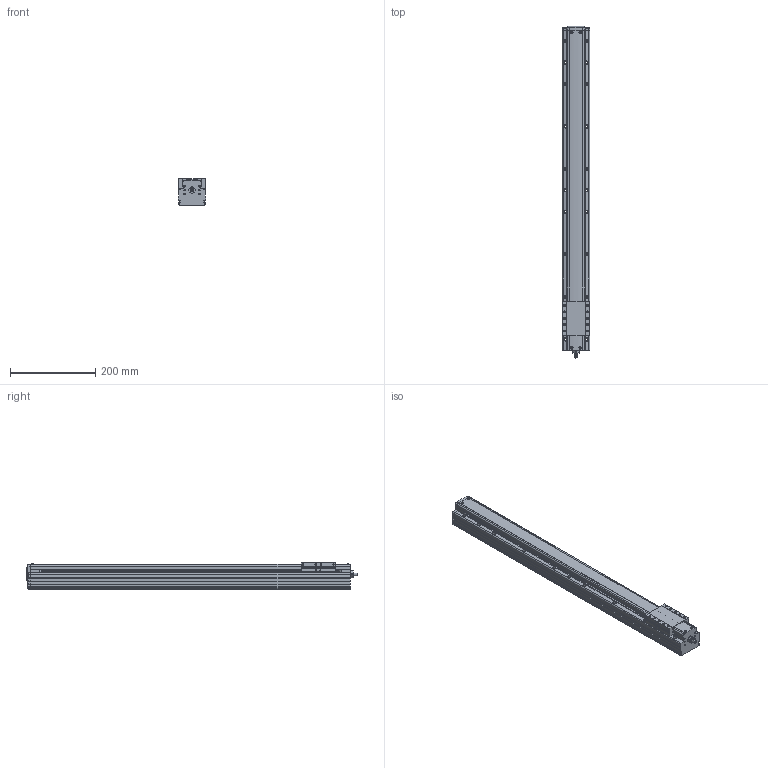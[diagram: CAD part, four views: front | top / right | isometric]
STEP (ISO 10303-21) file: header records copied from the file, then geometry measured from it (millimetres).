
FILE_DESCRIPTION(('STEP AP214'),'1');
FILE_NAME('Z:/Web/3D/PSA65/STP/PSA65-600 (3D)/PSA65ㅁㅁ-600.stp','2014-06-25T05:02:45',(' '),(' '),'Spatial InterOp 3D',' ',' ');
FILE_SCHEMA(('automotive_design'));
Length unit declared in the file: millimetre
Products named in the file (44): SLIDE; RRCV-PA060; 1; 2; 3; 4; 5; 6; 7; 8; 9; 10; 11; 12; 13; 14; 15; 16; 17; 18; 19; 20; 21; 22; 23; 24; 25; 26; 27; 28; 29; 30; 31; 스크루 : Round - M3.0 x 8.0; RN8 x 0.75; SHAFT-SAN65; BASE; 스크루 : Round - M3.0 x 6.0
Bounding box: 65 x 779.3 x 62 mm (x, y, z)
Volume: 2347124.4 mm3; surface area: 300646.3 mm2
Topology: 44 solids, 44 shells, 1692 faces, 4521 edges, 2876 vertices
Faces by surface type: plane 993, cylinder 479, cone 167, sphere 22, torus 16, bspline 15
Entity records: 67177 total; most frequent: CARTESIAN_POINT 10474, DIRECTION 8936, ORIENTED_EDGE 8798, EDGE_CURVE 4399, LINE 3140, VECTOR 3140, AXIS2_PLACEMENT_3D 2898, VERTEX_POINT 2876
